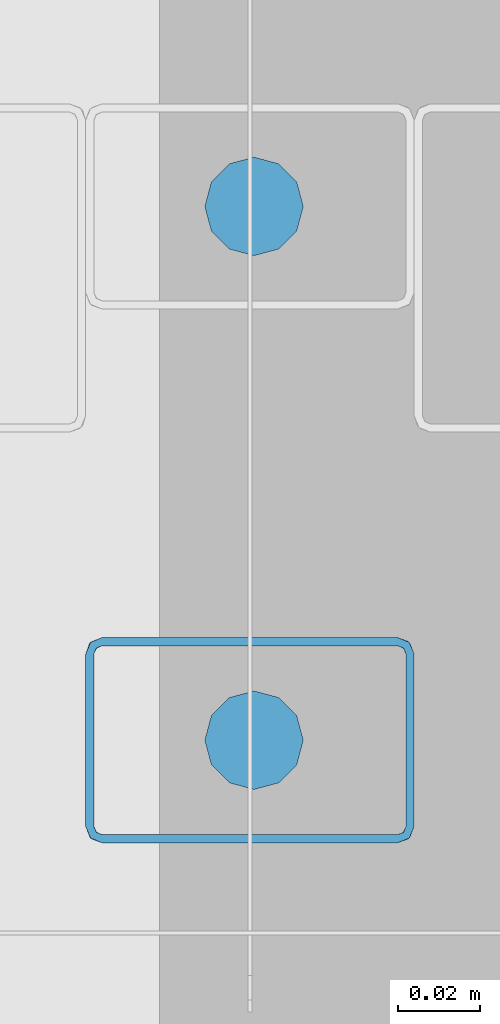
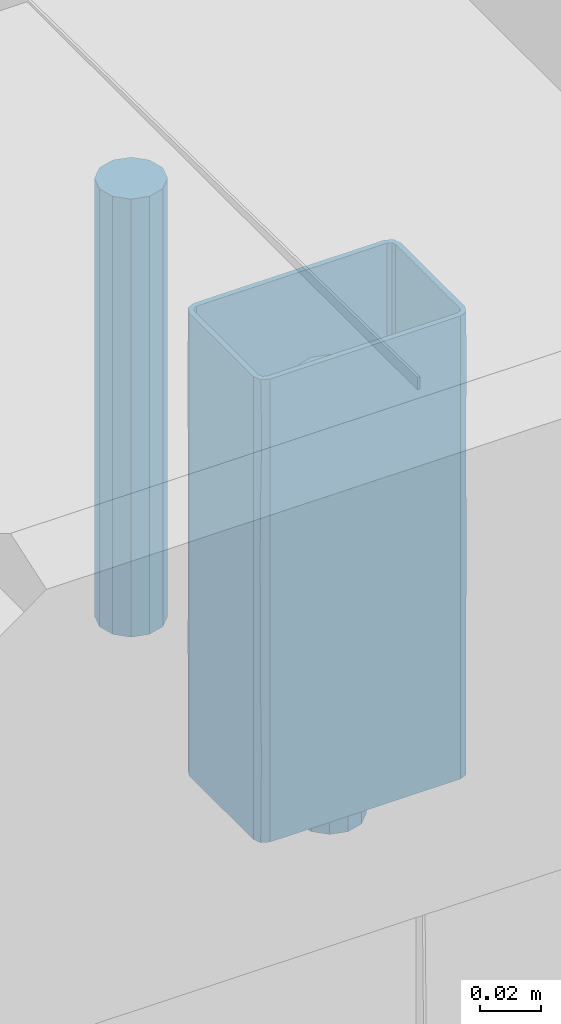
# One storey, part 146 of 186: 3 beams.
"""IFC4X3_ADD2 building model written with IfcOpenShell, lengths in millimetres."""

from ifc_helpers import new_model, si_unit, direction, frame, origin_with_axes, place, context, subcontext, project, spatial, polygons, element, save


model = new_model("IFC4X3_ADD2")

# Units and contexts
model_context = context("Model", 3, precision=1e-05, world=origin_with_axes(), true_north=direction((0.0, 1.0)))
body_context = subcontext(model_context, "Body", "Model", "MODEL_VIEW")
ifc_project = project(units=[si_unit("LENGTHUNIT", "METRE", prefix="MILLI"), si_unit("AREAUNIT", "SQUARE_METRE"), si_unit("VOLUMEUNIT", "CUBIC_METRE"), si_unit("PLANEANGLEUNIT", "RADIAN"), si_unit("TIMEUNIT", "SECOND"), si_unit("MASSUNIT", "GRAM")], contexts=[model_context])

# Site, building, storey
site_placement = place(None, origin_with_axes())
site = spatial("IfcSite", under=ifc_project, at=site_placement, Name="Site", CompositionType="ELEMENT")
building_placement = place(site_placement, origin_with_axes())
building = spatial("IfcBuilding", under=site, at=building_placement, Name="IFC Building Story")
storey_placement = place(building_placement, frame((0.0, 0.0, 4370.0), z_axis=(0.0, 0.0, 1.0), x_axis=(1.0, 0.0, 0.0)))
storey = spatial("IfcBuildingStorey", under=building, at=storey_placement, Name="ETAGE 10 (1)", Elevation=4370.0)

# Beams
beam_1_placement = place(storey_placement, frame((0.0, 0.0, -4370.0), z_axis=(0.0, 0.0, 1.0), x_axis=(1.0, 0.0, 0.0)))
element("IfcBeam", 1, at=beam_1_placement, inside=storey, Name="SD11", ObjectType="D24", context=body_context, shape_type="Tessellation", body=[
    polygons([(48350.1886988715, -14379.999992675, 7707.905416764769), (48350.1886988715, -14379.999992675, 7532.90541676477), (48351.79639402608, -14385.999992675, 7532.90541676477), (48351.79639402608, -14385.999992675, 7707.905416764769), (48356.18869887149, -14390.39229752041, 7532.90541676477), (48356.18869887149, -14390.39229752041, 7707.905416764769), (48362.18869887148, -14391.999992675, 7532.90541676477), (48362.18869887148, -14391.999992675, 7707.905416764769), (48368.18869887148, -14390.39229752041, 7532.90541676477), (48368.18869887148, -14390.39229752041, 7707.905416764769), (48372.58100371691, -14385.999992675, 7532.90541676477), (48372.58100371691, -14385.999992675, 7707.905416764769), (48374.1886988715, -14379.999992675, 7532.90541676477), (48374.1886988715, -14379.999992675, 7707.905416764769), (48372.58100371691, -14373.999992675, 7532.90541676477), (48372.58100371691, -14373.999992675, 7707.905416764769), (48368.18869887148, -14369.60768782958, 7532.90541676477), (48368.18869887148, -14369.60768782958, 7707.905416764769), (48362.18869887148, -14367.999992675, 7532.90541676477), (48362.18869887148, -14367.999992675, 7707.905416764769), (48356.18869887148, -14369.60768782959, 7532.90541676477), (48356.18869887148, -14369.60768782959, 7707.905416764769), (48351.79639402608, -14373.999992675, 7532.90541676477), (48351.79639402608, -14373.999992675, 7707.905416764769)], [[[1, 2, 3, 4]], [[4, 3, 5, 6]], [[6, 5, 7, 8]], [[8, 7, 9, 10]], [[10, 9, 11, 12]], [[12, 11, 13, 14]], [[14, 13, 15, 16]], [[16, 15, 17, 18]], [[18, 17, 19, 20]], [[20, 19, 21, 22]], [[22, 21, 23, 24]], [[24, 23, 2, 1]], [[4, 6, 8]], [[4, 8, 10]], [[4, 10, 12]], [[4, 12, 14]], [[4, 14, 16]], [[4, 16, 18]], [[4, 18, 20]], [[4, 20, 22]], [[4, 22, 24]], [[4, 24, 1]], [[2, 23, 21]], [[2, 21, 19]], [[2, 19, 17]], [[2, 17, 15]], [[2, 15, 13]], [[2, 13, 11]], [[2, 11, 9]], [[2, 9, 7]], [[2, 7, 5]], [[2, 5, 3]]]),
])
beam_2_placement = place(storey_placement, frame((0.0, 0.0, -4370.0), z_axis=(0.0, 0.0, 1.0), x_axis=(1.0, 0.0, 0.0)))
element("IfcBeam", 2, at=beam_2_placement, inside=storey, Name="SD11", ObjectType="D24", context=body_context, shape_type="Tessellation", body=[
    polygons([(48350.1886988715, -14249.999992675, 7707.905416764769), (48350.1886988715, -14249.999992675, 7532.90541676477), (48351.79639402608, -14255.999992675, 7532.90541676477), (48351.79639402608, -14255.999992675, 7707.905416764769), (48356.18869887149, -14260.39229752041, 7532.90541676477), (48356.18869887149, -14260.39229752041, 7707.905416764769), (48362.18869887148, -14261.999992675, 7532.90541676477), (48362.18869887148, -14261.999992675, 7707.905416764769), (48368.18869887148, -14260.39229752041, 7532.90541676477), (48368.18869887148, -14260.39229752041, 7707.905416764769), (48372.58100371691, -14255.999992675, 7532.90541676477), (48372.58100371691, -14255.999992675, 7707.905416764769), (48374.1886988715, -14249.999992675, 7532.90541676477), (48374.1886988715, -14249.999992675, 7707.905416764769), (48372.58100371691, -14243.999992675, 7532.90541676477), (48372.58100371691, -14243.999992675, 7707.905416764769), (48368.18869887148, -14239.60768782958, 7532.90541676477), (48368.18869887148, -14239.60768782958, 7707.905416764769), (48362.18869887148, -14237.999992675, 7532.90541676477), (48362.18869887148, -14237.999992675, 7707.905416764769), (48356.18869887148, -14239.60768782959, 7532.90541676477), (48356.18869887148, -14239.60768782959, 7707.905416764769), (48351.79639402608, -14243.999992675, 7532.90541676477), (48351.79639402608, -14243.999992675, 7707.905416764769)], [[[1, 2, 3, 4]], [[4, 3, 5, 6]], [[6, 5, 7, 8]], [[8, 7, 9, 10]], [[10, 9, 11, 12]], [[12, 11, 13, 14]], [[14, 13, 15, 16]], [[16, 15, 17, 18]], [[18, 17, 19, 20]], [[20, 19, 21, 22]], [[22, 21, 23, 24]], [[24, 23, 2, 1]], [[4, 6, 8]], [[4, 8, 10]], [[4, 10, 12]], [[4, 12, 14]], [[4, 14, 16]], [[4, 16, 18]], [[4, 18, 20]], [[4, 20, 22]], [[4, 22, 24]], [[4, 24, 1]], [[2, 23, 21]], [[2, 21, 19]], [[2, 19, 17]], [[2, 17, 15]], [[2, 15, 13]], [[2, 13, 11]], [[2, 11, 9]], [[2, 9, 7]], [[2, 7, 5]], [[2, 5, 3]]]),
])
beam_3_placement = place(storey_placement, frame((0.0, 0.0, -4370.0), z_axis=(0.0, 0.0, 1.0), x_axis=(1.0, 0.0, 0.0)))
element("IfcBeam", 3, at=beam_3_placement, inside=storey, Name="PS9", ObjectType="K50*80*2", context=body_context, shape_type="Tessellation", body=[
    polygons([(48399.18900000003, -14400.99999999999, 7549.598981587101), (48401.18900000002, -14400.99999999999, 7549.598981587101), (48398.60321356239, -14402.41421356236, 7549.598981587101), (48399.18900000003, -14358.99999999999, 7549.598981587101), (48401.18900000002, -14358.99999999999, 7549.598981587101), (48398.60321356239, -14357.58578643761, 7549.598981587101), (48400.01742712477, -14356.17157287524, 7549.598981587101), (48397.18900000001, -14354.99999999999, 7549.598981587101), (48397.18900000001, -14356.99999999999, 7549.598981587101), (48325.18900000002, -14354.99999999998, 7549.598981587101), (48325.18900000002, -14356.99999999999, 7549.598981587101), (48323.77478643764, -14357.58578643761, 7549.598981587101), (48322.36057287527, -14356.17157287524, 7549.598981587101), (48321.18900000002, -14358.99999999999, 7549.598981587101), (48323.18900000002, -14358.99999999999, 7549.598981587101), (48321.18900000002, -14400.99999999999, 7549.598981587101), (48323.18900000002, -14400.99999999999, 7549.598981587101), (48323.77478643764, -14402.41421356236, 7549.598981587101), (48322.36057287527, -14403.82842712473, 7549.598981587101), (48325.18900000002, -14404.99999999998, 7549.598981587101), (48325.18900000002, -14402.99999999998, 7549.598981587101), (48397.18900000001, -14402.99999999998, 7549.598981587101), (48397.18900000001, -14404.99999999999, 7549.598981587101), (48400.01742712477, -14403.82842712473, 7549.598981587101), (48323.18900000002, -14400.99999999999, 7734.598981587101), (48321.18900000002, -14400.99999999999, 7734.598981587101), (48323.77478643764, -14402.41421356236, 7734.598981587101), (48323.18900000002, -14358.99999999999, 7734.598981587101), (48321.18900000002, -14358.99999999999, 7734.598981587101), (48323.77478643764, -14357.58578643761, 7734.598981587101), (48322.36057287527, -14356.17157287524, 7734.598981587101), (48325.18900000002, -14354.99999999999, 7734.598981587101), (48325.18900000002, -14356.99999999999, 7734.598981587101), (48397.18900000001, -14354.99999999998, 7734.598981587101), (48397.18900000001, -14356.99999999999, 7734.598981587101), (48398.60321356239, -14357.58578643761, 7734.598981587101), (48400.01742712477, -14356.17157287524, 7734.598981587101), (48401.18900000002, -14358.99999999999, 7734.598981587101), (48399.18900000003, -14358.99999999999, 7734.598981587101), (48401.18900000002, -14400.99999999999, 7734.598981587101), (48399.18900000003, -14400.99999999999, 7734.598981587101), (48398.60321356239, -14402.41421356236, 7734.598981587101), (48400.01742712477, -14403.82842712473, 7734.598981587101), (48397.18900000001, -14404.99999999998, 7734.598981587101), (48397.18900000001, -14402.99999999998, 7734.598981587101), (48325.18900000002, -14402.99999999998, 7734.598981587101), (48325.18900000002, -14404.99999999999, 7734.598981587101), (48322.36057287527, -14403.82842712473, 7734.598981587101), (48325.18900000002, -14354.99999999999, 7567.057500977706), (48325.18900000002, -14354.99999999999, 7595.848981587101), (48325.18900000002, -14354.99999999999, 7618.973979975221), (48325.18900000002, -14354.99999999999, 7642.098981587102), (48325.18900000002, -14354.99999999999, 7665.22398319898), (48325.18900000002, -14354.99999999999, 7688.348981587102), (48325.18900000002, -14354.99999999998, 7717.140462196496), (48397.18900000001, -14354.99999999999, 7699.681936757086), (48397.18900000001, -14354.99999999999, 7677.016027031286), (48397.18900000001, -14354.99999999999, 7648.224549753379), (48397.18900000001, -14354.99999999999, 7619.433072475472), (48397.18900000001, -14354.99999999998, 7584.516026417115), (48399.8711395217, -14356.03248798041, 7688.348979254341), (48401.18900000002, -14358.99999999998, 7717.140460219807), (48401.18900000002, -14358.99999999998, 7567.057505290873), (48400.13732995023, -14356.29678885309, 7578.945875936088), (48400.13076139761, -14356.28964211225, 7653.661479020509), (48401.18900000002, -14358.99999999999, 7665.223981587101), (48400.13085629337, -14356.28974511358, 7628.466971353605), (48399.76834546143, -14355.94271738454, 7711.526446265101), (48401.18900000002, -14358.99999999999, 7688.348981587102), (48399.75782180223, -14355.93386977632, 7602.891747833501), (48401.18900000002, -14358.99999999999, 7642.098981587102), (48401.18900000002, -14358.99999999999, 7618.9739815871), (48401.18900000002, -14358.99999999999, 7595.848981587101), (48401.18900000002, -14400.99999999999, 7717.140458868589), (48401.18900000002, -14400.99999999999, 7688.348981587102), (48401.18900000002, -14400.99999999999, 7665.223981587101), (48401.18900000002, -14400.99999999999, 7642.098981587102), (48401.18900000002, -14400.99999999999, 7618.9739815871), (48401.18900000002, -14400.99999999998, 7595.848981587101), (48401.18900000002, -14400.99999999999, 7567.057504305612), (48400.13733021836, -14403.70321085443, 7705.252077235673), (48399.76834551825, -14404.05728256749, 7572.671514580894), (48399.87113952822, -14403.96751201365, 7595.848979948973), (48397.18900000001, -14404.99999999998, 7584.516027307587), (48397.18900000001, -14404.99999999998, 7607.181936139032), (48400.13076137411, -14403.71035791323, 7630.536479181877), (48397.18900000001, -14404.99999999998, 7699.681935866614), (48399.75782193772, -14404.06613011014, 7681.306206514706), (48400.13085619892, -14403.71025498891, 7655.73098495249), (48397.18900000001, -14404.99999999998, 7664.764890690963), (48397.18900000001, -14404.99999999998, 7635.973413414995), (48325.18900000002, -14404.99999999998, 7699.681936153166), (48325.18900000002, -14404.99999999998, 7670.890458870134), (48325.18900000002, -14404.99999999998, 7642.098981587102), (48325.18900000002, -14404.99999999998, 7618.973981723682), (48325.18900000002, -14404.99999999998, 7595.848981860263), (48325.18900000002, -14404.99999999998, 7567.057504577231), (48321.18900000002, -14400.99999999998, 7584.516027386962), (48321.18900000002, -14400.99999999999, 7619.433073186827), (48322.34856484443, -14403.81636789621, 7607.411479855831), (48321.18900000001, -14400.99999999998, 7699.681935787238), (48322.36057299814, -14403.8284272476, 7688.348976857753), (48322.60086179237, -14404.04984272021, 7711.473977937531), (48322.53711678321, -14403.99458100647, 7583.376471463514), (48322.22149317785, -14403.68214527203, 7663.470051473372), (48322.29673344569, -14403.76311313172, 7640.418718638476), (48321.18900000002, -14400.99999999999, 7677.01602659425), (48321.18900000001, -14400.99999999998, 7648.224549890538), (48321.18900000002, -14358.99999999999, 7699.681936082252), (48321.18900000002, -14358.99999999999, 7677.016027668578), (48321.18900000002, -14358.99999999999, 7648.224550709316), (48321.18900000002, -14358.99999999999, 7619.433072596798), (48321.18900000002, -14358.99999999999, 7584.516027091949), (48322.22148794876, -14356.31786051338, 7688.348978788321), (48322.48578884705, -14356.05167005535, 7578.945875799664), (48322.4786421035, -14356.05823861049, 7653.661478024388), (48322.47874509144, -14356.05814372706, 7628.466970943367), (48322.13171738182, -14356.42065454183, 7711.526445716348), (48322.12286975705, -14356.43117822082, 7602.891747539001), (48323.82900168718, -14357.53357421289, 7625.929039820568), (48323.18900000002, -14358.99999999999, 7623.66922028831), (48323.8741783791, -14357.49293526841, 7613.583468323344), (48323.61029313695, -14357.77212189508, 7664.531819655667), (48323.71172133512, -14357.65179832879, 7653.749277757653), (48325.18900000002, -14356.99999999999, 7665.223981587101), (48323.82900170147, -14357.53357419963, 7693.738959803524), (48323.18900000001, -14358.99999999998, 7702.259100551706), (48323.18900000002, -14358.99999999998, 7691.479140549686), (48323.18900000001, -14358.99999999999, 7680.699180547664), (48323.70209668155, -14357.6624206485, 7641.817961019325), (48325.18900000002, -14356.99999999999, 7642.098981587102), (48325.18900000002, -14356.99999999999, 7722.253941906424), (48323.7747864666, -14357.58578640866, 7717.646499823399), (48325.18900000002, -14356.99999999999, 7709.90890222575), (48323.78342951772, -14357.57719586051, 7705.830626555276), (48323.18900000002, -14358.99999999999, 7722.25394171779), (48323.18900000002, -14358.99999999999, 7561.94402094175), (48323.77478641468, -14357.58578646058, 7568.11654096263), (48325.18900000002, -14356.99999999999, 7561.944021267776), (48323.18900000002, -14358.99999999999, 7636.014260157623), (48323.18900000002, -14358.99999999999, 7586.634100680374), (48323.72836652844, -14357.63378264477, 7580.461580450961), (48323.77478639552, -14357.58578647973, 7592.806619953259), (48323.71633825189, -14357.64675671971, 7675.309197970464), (48325.18900000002, -14356.99999999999, 7688.348981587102), (48323.18900000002, -14358.99999999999, 7598.979140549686), (48323.18900000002, -14358.99999999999, 7574.289060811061), (48325.18900000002, -14356.99999999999, 7586.63410062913), (48325.18900000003, -14356.99999999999, 7574.289060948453), (48323.18900000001, -14358.99999999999, 7713.039061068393), (48325.18900000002, -14356.99999999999, 7699.128941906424), (48323.18900000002, -14358.99999999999, 7659.139259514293), (48323.18900000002, -14358.99999999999, 7648.359299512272), (48323.18900000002, -14358.99999999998, 7669.919220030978), (48325.18900000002, -14356.99999999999, 7653.661481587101), (48325.18900000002, -14356.99999999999, 7631.319021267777), (48325.18900000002, -14356.99999999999, 7676.786481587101), (48325.18900000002, -14356.99999999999, 7620.539060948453), (48323.18900000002, -14358.99999999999, 7611.324180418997), (48323.633445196, -14357.74292034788, 7603.287688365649), (48325.18900000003, -14356.99999999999, 7609.759100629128), (48325.18900000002, -14356.99999999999, 7598.979140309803), (48323.18900000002, -14400.99999999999, 7722.253941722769), (48323.18900000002, -14400.99999999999, 7709.908901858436), (48323.18900000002, -14400.99999999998, 7699.128941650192), (48323.18900000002, -14400.99999999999, 7688.348981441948), (48323.18900000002, -14400.99999999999, 7676.786481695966), (48323.18900000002, -14400.99999999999, 7665.223981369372), (48323.18900000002, -14400.99999999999, 7653.661481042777), (48323.18900000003, -14400.99999999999, 7642.098981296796), (48323.18900000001, -14400.99999999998, 7630.536481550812), (48323.18900000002, -14400.99999999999, 7618.973981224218), (48323.18900000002, -14400.99999999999, 7607.411480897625), (48323.18900000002, -14400.99999999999, 7595.848981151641), (48323.18900000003, -14400.99999999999, 7585.069020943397), (48323.18900000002, -14400.99999999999, 7574.289060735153), (48323.18900000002, -14400.99999999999, 7561.944021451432), (48323.70496062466, -14402.3407561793, 7659.44273014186), (48323.66485584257, -14402.29498439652, 7647.880618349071), (48323.87424681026, -14402.50712443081, 7621.237918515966), (48323.70296043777, -14402.33853891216, 7636.317730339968), (48325.18900000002, -14402.99999999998, 7625.058702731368), (48325.18900000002, -14402.99999999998, 7561.944020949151), (48323.77478644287, -14402.41421356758, 7566.551461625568), (48325.18900000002, -14402.99999999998, 7571.158902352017), (48323.72257418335, -14402.35999828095, 7579.67904054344), (48323.70041971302, -14402.33571281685, 7694.823087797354), (48323.71734898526, -14402.35434238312, 7682.567730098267), (48325.18900000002, -14402.99999999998, 7648.18370400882), (48323.73451716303, -14402.37276351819, 7591.347273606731), (48325.18900000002, -14402.99999999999, 7581.938862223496), (48325.18900000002, -14402.99999999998, 7722.25394222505), (48325.18900000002, -14402.99999999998, 7685.218823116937), (48323.77478642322, -14402.41421354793, 7716.08142123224), (48325.18900000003, -14402.99999999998, 7709.908901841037), (48325.18900000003, -14402.99999999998, 7672.873782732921), (48323.66529696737, -14402.29550340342, 7671.008022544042), (48325.18900000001, -14402.99999999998, 7660.528743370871), (48323.83575669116, -14402.47266172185, 7608.888762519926), (48325.18900000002, -14402.99999999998, 7614.278742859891), (48325.18900000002, -14402.99999999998, 7603.498782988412), (48325.18900000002, -14402.99999999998, 7592.718822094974), (48325.18900000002, -14402.99999999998, 7697.563862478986), (48323.91915055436, -14402.54514801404, 7705.388109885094), (48325.18900000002, -14402.99999999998, 7635.838663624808), (48397.18900000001, -14402.99999999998, 7722.253942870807), (48397.18900000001, -14402.99999999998, 7711.473981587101), (48397.18900000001, -14402.99999999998, 7699.9114815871), (48397.18900000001, -14402.99999999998, 7688.348981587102), (48397.18900000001, -14402.99999999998, 7676.786481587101), (48397.18900000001, -14402.99999999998, 7665.223981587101), (48397.18900000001, -14402.99999999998, 7653.661481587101), (48397.18900000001, -14402.99999999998, 7642.098981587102), (48397.18900000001, -14402.99999999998, 7630.536481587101), (48397.18900000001, -14402.99999999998, 7618.9739815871), (48397.18900000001, -14402.99999999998, 7607.411481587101), (48397.18900000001, -14402.99999999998, 7595.848981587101), (48397.18900000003, -14402.99999999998, 7585.069020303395), (48397.18900000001, -14402.99999999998, 7574.289060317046), (48397.18900000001, -14402.99999999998, 7561.944020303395), (48398.52975615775, -14402.48403939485, 7659.442730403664), (48398.48398437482, -14402.52414417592, 7647.880618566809), (48398.69612441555, -14402.31475320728, 7621.237918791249), (48398.52753889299, -14402.48603957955, 7636.317730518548), (48399.18900000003, -14400.99999999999, 7625.058703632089), (48398.47519377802, -14402.53156964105, 7705.518256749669), (48399.18900000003, -14400.99999999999, 7561.944022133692), (48398.60321356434, -14402.41421356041, 7566.551461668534), (48399.18900000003, -14400.99999999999, 7571.158902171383), (48399.18900000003, -14400.99999999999, 7722.253942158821), (48398.54899827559, -14402.46642582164, 7579.679040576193), (48399.18900000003, -14400.99999999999, 7685.218822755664), (48398.5543183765, -14402.46147382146, 7694.130230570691), (48399.18900000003, -14400.99999999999, 7697.563862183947), (48398.67461845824, -14402.33900627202, 7679.046301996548), (48398.56176351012, -14402.45448284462, 7591.347273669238), (48399.18900000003, -14400.99999999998, 7581.938862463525), (48399.18900000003, -14400.99999999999, 7709.908902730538), (48398.60321354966, -14402.41421357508, 7716.86396120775), (48399.18900000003, -14400.99999999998, 7648.183703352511), (48399.18900000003, -14400.99999999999, 7672.873783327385), (48399.18900000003, -14400.99999999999, 7660.528742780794), (48398.66166170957, -14402.35324332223, 7608.888762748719), (48399.18900000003, -14400.99999999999, 7614.278743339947), (48399.18900000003, -14400.99999999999, 7603.498783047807), (48399.18900000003, -14400.99999999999, 7592.718822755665), (48399.18900000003, -14400.99999999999, 7635.838663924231), (48399.18900000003, -14358.99999999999, 7722.253941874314), (48399.18900000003, -14358.99999999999, 7709.908902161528), (48399.18900000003, -14358.99999999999, 7697.563862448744), (48399.18900000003, -14358.99999999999, 7685.218822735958), (48399.18900000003, -14358.99999999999, 7672.873783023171), (48399.18900000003, -14358.99999999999, 7660.528743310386), (48399.18900000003, -14358.99999999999, 7648.183703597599), (48399.18900000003, -14358.99999999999, 7635.838663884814), (48399.18900000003, -14358.99999999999, 7625.0587035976), (48399.18900000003, -14358.99999999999, 7614.278743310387), (48399.18900000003, -14358.99999999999, 7603.498783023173), (48399.18900000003, -14358.99999999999, 7592.718822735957), (48399.18900000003, -14358.99999999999, 7581.938862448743), (48399.18900000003, -14358.99999999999, 7571.158902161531), (48399.18900000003, -14358.99999999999, 7561.944021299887), (48398.76770674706, -14357.77212174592, 7619.666140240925), (48398.66627859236, -14357.65179824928, 7630.448682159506), (48397.18900000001, -14356.99999999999, 7618.973981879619), (48398.54899824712, -14357.5335741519, 7658.268919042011), (48398.50382159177, -14357.49293524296, 7670.614489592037), (48398.60321360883, -14357.58578648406, 7716.081418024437), (48398.60321362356, -14357.58578649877, 7702.876051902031), (48397.18900000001, -14356.99999999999, 7709.908902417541), (48397.18900000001, -14356.99999999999, 7642.098981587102), (48398.67590326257, -14357.66242058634, 7642.379998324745), (48398.54899825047, -14357.53357415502, 7590.459000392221), (48398.59457048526, -14357.57719586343, 7578.367333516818), (48397.18900000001, -14356.99999999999, 7574.289060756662), (48398.60321356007, -14357.58578643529, 7566.551461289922), (48398.6616616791, -14357.64675664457, 7608.888761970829), (48397.18900000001, -14356.99999999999, 7595.848981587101), (48397.18900000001, -14356.99999999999, 7697.563862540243), (48398.60321352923, -14357.58578640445, 7690.510053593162), (48397.18900000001, -14356.99999999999, 7722.253941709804), (48397.18900000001, -14356.99999999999, 7561.944021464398), (48397.18900000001, -14356.99999999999, 7585.069021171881), (48397.18900000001, -14356.99999999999, 7630.536482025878), (48397.18900000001, -14356.99999999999, 7652.878942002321), (48397.18900000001, -14356.99999999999, 7607.41148173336), (48397.18900000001, -14356.99999999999, 7663.658901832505), (48397.18900000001, -14356.99999999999, 7674.438862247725), (48397.18900000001, -14356.99999999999, 7685.218822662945)], [[[1, 2, 3]], [[2, 1, 4]], [[4, 5, 2]], [[6, 5, 4]], [[7, 5, 6]], [[6, 8, 7]], [[6, 9, 8]], [[8, 9, 10]], [[11, 10, 9]], [[11, 12, 10]], [[10, 12, 13]], [[14, 13, 12]], [[14, 12, 15]], [[14, 15, 16]], [[17, 16, 15]], [[18, 16, 17]], [[16, 18, 19]], [[18, 20, 19]], [[21, 20, 18]], [[20, 21, 22]], [[3, 23, 22]], [[22, 23, 20]], [[3, 2, 24]], [[23, 3, 24]], [[25, 26, 27]], [[26, 25, 28]], [[28, 29, 26]], [[30, 29, 28]], [[31, 29, 30]], [[30, 32, 31]], [[30, 33, 32]], [[32, 33, 34]], [[35, 34, 33]], [[35, 36, 34]], [[34, 36, 37]], [[38, 37, 36]], [[38, 36, 39]], [[38, 39, 40]], [[41, 40, 39]], [[42, 40, 41]], [[40, 42, 43]], [[42, 44, 43]], [[45, 44, 42]], [[44, 45, 46]], [[27, 47, 46]], [[46, 47, 44]], [[27, 26, 48]], [[47, 27, 48]], [[55, 32, 34]], [[56, 57, 54]], [[54, 55, 34]], [[54, 34, 56]], [[57, 53, 54]], [[57, 58, 52]], [[57, 52, 53]], [[58, 59, 51]], [[58, 51, 52]], [[59, 60, 50]], [[59, 50, 51]], [[60, 8, 49]], [[60, 49, 50]], [[8, 10, 49]], [[61, 57, 56]], [[37, 38, 62]], [[63, 5, 7]], [[7, 8, 64]], [[61, 65, 57]], [[66, 65, 61]], [[67, 59, 58]], [[61, 68, 69]], [[61, 56, 68]], [[8, 60, 64]], [[67, 70, 59]], [[34, 37, 68]], [[64, 60, 70]], [[68, 62, 69]], [[58, 65, 67]], [[65, 66, 71]], [[61, 69, 66]], [[65, 71, 67]], [[57, 65, 58]], [[70, 72, 73]], [[72, 70, 67]], [[64, 73, 63]], [[60, 59, 70]], [[34, 68, 56]], [[62, 68, 37]], [[67, 71, 72]], [[73, 64, 70]], [[7, 64, 63]], [[62, 38, 40]], [[62, 40, 74]], [[74, 75, 69]], [[74, 69, 62]], [[75, 76, 66]], [[75, 66, 69]], [[76, 77, 71]], [[76, 71, 66]], [[77, 78, 72]], [[77, 72, 71]], [[78, 79, 73]], [[78, 73, 72]], [[79, 80, 63]], [[79, 63, 73]], [[80, 2, 5]], [[80, 5, 63]], [[43, 44, 81]], [[82, 79, 83]], [[84, 83, 85]], [[82, 80, 79]], [[83, 86, 85]], [[24, 2, 80]], [[74, 40, 43]], [[78, 86, 83]], [[81, 44, 87]], [[87, 88, 81]], [[89, 90, 91]], [[89, 88, 90]], [[23, 24, 82]], [[83, 84, 82]], [[91, 86, 89]], [[86, 78, 77]], [[83, 79, 78]], [[86, 77, 89]], [[85, 86, 91]], [[88, 76, 75]], [[76, 88, 89]], [[81, 75, 74]], [[87, 90, 88]], [[23, 82, 84]], [[80, 82, 24]], [[89, 77, 76]], [[75, 81, 88]], [[43, 81, 74]], [[87, 44, 47]], [[87, 47, 92]], [[92, 93, 90]], [[92, 90, 87]], [[93, 94, 91]], [[93, 91, 90]], [[95, 96, 85]], [[85, 91, 94]], [[85, 94, 95]], [[96, 84, 85]], [[97, 20, 23]], [[97, 23, 84]], [[84, 96, 97]], [[98, 16, 19]], [[99, 98, 100]], [[101, 102, 103]], [[19, 97, 104]], [[48, 103, 47]], [[94, 105, 106]], [[93, 102, 105]], [[96, 100, 104]], [[105, 102, 107]], [[26, 101, 103]], [[100, 106, 99]], [[19, 20, 97]], [[101, 107, 102]], [[105, 94, 93]], [[103, 102, 92]], [[93, 92, 102]], [[107, 108, 105]], [[105, 108, 106]], [[47, 103, 92]], [[103, 48, 26]], [[108, 99, 106]], [[96, 95, 100]], [[100, 95, 106]], [[95, 94, 106]], [[104, 100, 98]], [[19, 104, 98]], [[97, 96, 104]], [[101, 26, 29]], [[101, 29, 109]], [[109, 110, 107]], [[109, 107, 101]], [[110, 111, 108]], [[110, 108, 107]], [[111, 112, 99]], [[111, 99, 108]], [[112, 113, 98]], [[112, 98, 99]], [[113, 14, 16]], [[113, 16, 98]], [[114, 110, 109]], [[31, 32, 55]], [[49, 10, 13]], [[13, 14, 115]], [[114, 116, 110]], [[53, 116, 114]], [[117, 112, 111]], [[114, 118, 54]], [[114, 109, 118]], [[14, 113, 115]], [[117, 119, 112]], [[29, 31, 118]], [[115, 113, 119]], [[118, 55, 54]], [[111, 116, 117]], [[116, 53, 52]], [[114, 54, 53]], [[116, 52, 117]], [[110, 116, 111]], [[119, 51, 50]], [[51, 119, 117]], [[115, 50, 49]], [[113, 112, 119]], [[29, 118, 109]], [[55, 118, 31]], [[117, 52, 51]], [[50, 115, 119]], [[13, 115, 49]], [[120, 121, 122]], [[123, 124, 125]], [[126, 127, 128, 129]], [[124, 130, 131]], [[132, 30, 133]], [[134, 133, 135]], [[30, 28, 136]], [[137, 15, 12]], [[138, 12, 139]], [[120, 130, 140]], [[141, 142, 143]], [[144, 145, 126]], [[141, 143, 146]], [[137, 138, 147]], [[148, 142, 149]], [[30, 136, 133]], [[150, 133, 136]], [[12, 11, 139]], [[132, 33, 30]], [[12, 138, 137]], [[133, 134, 132]], [[150, 127, 135]], [[135, 126, 151]], [[150, 135, 133]], [[151, 126, 145]], [[152, 153, 124]], [[129, 154, 144]], [[124, 131, 155, 125]], [[130, 120, 156]], [[144, 154, 123]], [[157, 145, 144, 125]], [[129, 144, 126]], [[152, 123, 154]], [[158, 120, 122]], [[142, 138, 149]], [[142, 141, 147]], [[149, 138, 139]], [[159, 122, 121]], [[153, 130, 124]], [[159, 160, 122]], [[156, 120, 158]], [[121, 120, 140]], [[143, 160, 146]], [[161, 158, 122]], [[143, 162, 160]], [[148, 162, 143]], [[143, 142, 148]], [[138, 142, 147]], [[144, 123, 125]], [[124, 123, 152]], [[134, 135, 151]], [[135, 127, 126]], [[146, 160, 159]], [[162, 161, 160]], [[161, 122, 160]], [[156, 131, 130]], [[140, 130, 153]], [[136, 28, 25]], [[136, 25, 163]], [[163, 164, 150]], [[163, 150, 136]], [[164, 165, 127]], [[164, 127, 150]], [[165, 166, 128]], [[165, 128, 127]], [[166, 167, 129]], [[166, 129, 128]], [[167, 168, 154]], [[167, 154, 129]], [[168, 169, 152]], [[168, 152, 154]], [[169, 153, 152]], [[170, 171, 140]], [[140, 153, 169]], [[140, 169, 170]], [[171, 172, 121]], [[171, 121, 140]], [[172, 173, 159]], [[172, 159, 121]], [[173, 174, 146]], [[173, 146, 159]], [[174, 175, 141]], [[174, 141, 146]], [[175, 176, 147]], [[175, 147, 141]], [[176, 177, 137]], [[176, 137, 147]], [[177, 17, 15]], [[177, 15, 137]], [[178, 179, 169]], [[180, 181, 182]], [[163, 25, 27]], [[18, 17, 177]], [[183, 184, 185]], [[176, 175, 186]], [[187, 188, 166]], [[166, 188, 167]], [[189, 179, 178]], [[190, 186, 175]], [[186, 190, 191]], [[183, 21, 18]], [[46, 192, 27]], [[187, 193, 188]], [[163, 194, 164]], [[195, 194, 192]], [[185, 186, 191]], [[27, 194, 163]], [[196, 197, 188]], [[169, 168, 178]], [[18, 177, 176, 184]], [[198, 189, 178]], [[18, 184, 183]], [[186, 185, 184]], [[199, 200, 201]], [[176, 186, 184]], [[202, 191, 190, 201]], [[27, 192, 194]], [[190, 199, 201]], [[179, 181, 170]], [[197, 196, 198]], [[178, 168, 197]], [[193, 196, 188]], [[197, 167, 188]], [[187, 203, 193]], [[195, 204, 194]], [[165, 164, 204]], [[180, 199, 172]], [[172, 199, 174, 173]], [[199, 190, 174]], [[180, 200, 199]], [[205, 182, 181, 189]], [[171, 181, 180]], [[204, 195, 203]], [[187, 165, 204]], [[170, 181, 171]], [[180, 172, 171]], [[169, 179, 170]], [[181, 179, 189]], [[167, 197, 168]], [[198, 178, 197]], [[182, 200, 180]], [[187, 166, 165]], [[194, 204, 164]], [[187, 204, 203]], [[174, 190, 175]], [[192, 46, 45]], [[192, 45, 206]], [[206, 207, 195]], [[206, 195, 192]], [[207, 208, 203]], [[207, 203, 195]], [[208, 209, 193]], [[208, 193, 203]], [[209, 210, 196]], [[209, 196, 193]], [[210, 211, 198]], [[210, 198, 196]], [[211, 212, 189]], [[211, 189, 198]], [[213, 214, 205]], [[213, 205, 189]], [[189, 212, 213]], [[214, 182, 205]], [[214, 215, 200]], [[214, 200, 182]], [[215, 216, 201]], [[215, 201, 200]], [[216, 217, 202]], [[216, 202, 201]], [[217, 218, 191]], [[217, 191, 202]], [[218, 219, 185]], [[218, 185, 191]], [[219, 220, 183]], [[219, 183, 185]], [[220, 22, 21]], [[220, 21, 183]], [[221, 222, 212]], [[223, 224, 225]], [[208, 207, 226]], [[227, 1, 3]], [[227, 3, 228]], [[228, 229, 227]], [[42, 41, 230]], [[219, 218, 231]], [[232, 233, 234]], [[233, 235, 209]], [[208, 233, 209]], [[236, 231, 218]], [[231, 236, 237]], [[238, 226, 239]], [[206, 239, 207]], [[208, 226, 233]], [[206, 45, 42]], [[220, 219, 228]], [[228, 3, 22]], [[228, 22, 220]], [[229, 231, 237]], [[42, 230, 239]], [[42, 239, 206]], [[239, 230, 238]], [[240, 222, 221]], [[221, 235, 241]], [[212, 211, 221]], [[242, 240, 221, 241]], [[231, 229, 228]], [[243, 244, 245]], [[219, 231, 228]], [[246, 237, 236, 245]], [[241, 235, 232]], [[238, 234, 226]], [[222, 224, 213]], [[210, 209, 235, 211]], [[235, 221, 211]], [[236, 243, 245]], [[223, 243, 215]], [[215, 243, 217, 216]], [[243, 236, 217]], [[223, 244, 243]], [[247, 225, 224, 240]], [[214, 224, 223]], [[213, 224, 214]], [[223, 215, 214]], [[232, 235, 233]], [[212, 222, 213]], [[224, 222, 240]], [[234, 233, 226]], [[239, 226, 207]], [[225, 244, 223]], [[217, 236, 218]], [[230, 41, 39]], [[230, 39, 248]], [[248, 249, 238]], [[248, 238, 230]], [[249, 250, 234]], [[249, 234, 238]], [[250, 251, 232]], [[250, 232, 234]], [[251, 252, 241]], [[251, 241, 232]], [[252, 253, 242]], [[252, 242, 241]], [[253, 254, 240]], [[253, 240, 242]], [[254, 255, 247]], [[254, 247, 240]], [[255, 256, 225]], [[255, 225, 247]], [[256, 257, 244]], [[256, 244, 225]], [[257, 258, 245]], [[257, 245, 244]], [[258, 259, 246]], [[258, 246, 245]], [[259, 260, 237]], [[259, 237, 246]], [[260, 261, 229]], [[260, 229, 237]], [[261, 262, 227]], [[261, 227, 229]], [[262, 4, 1]], [[262, 1, 227]], [[263, 264, 265]], [[266, 253, 267]], [[249, 248, 268]], [[269, 268, 270]], [[271, 264, 272]], [[273, 260, 259, 258]], [[261, 260, 274]], [[275, 276, 274]], [[266, 272, 254]], [[262, 261, 276]], [[276, 6, 4]], [[276, 4, 262]], [[248, 39, 36]], [[277, 278, 273]], [[269, 279, 280]], [[35, 281, 36]], [[282, 9, 6]], [[36, 268, 248]], [[282, 6, 276]], [[281, 270, 268]], [[282, 276, 275]], [[274, 273, 283]], [[261, 274, 276]], [[283, 273, 278]], [[256, 255, 264]], [[258, 257, 277]], [[264, 271, 284, 265]], [[272, 266, 285]], [[277, 257, 263]], [[286, 278, 277, 265]], [[258, 277, 273]], [[256, 263, 257]], [[36, 281, 268]], [[249, 268, 269]], [[252, 251, 267, 253]], [[255, 272, 264]], [[287, 266, 267]], [[285, 266, 287]], [[253, 266, 254]], [[250, 249, 269]], [[280, 250, 269]], [[288, 287, 267, 289]], [[280, 289, 267]], [[277, 263, 265]], [[251, 250, 280]], [[269, 270, 279]], [[264, 263, 256]], [[275, 274, 283]], [[274, 260, 273]], [[285, 271, 272]], [[254, 272, 255]], [[251, 280, 267]], [[289, 280, 279]], [[281, 35, 33]], [[281, 33, 132]], [[132, 134, 270]], [[132, 270, 281]], [[134, 151, 279]], [[134, 279, 270]], [[151, 145, 289]], [[151, 289, 279]], [[145, 157, 288]], [[145, 288, 289]], [[157, 125, 287]], [[157, 287, 288]], [[125, 155, 285]], [[125, 285, 287]], [[155, 131, 271]], [[155, 271, 285]], [[131, 156, 284]], [[131, 284, 271]], [[156, 158, 265]], [[156, 265, 284]], [[158, 161, 286]], [[158, 286, 265]], [[161, 162, 278]], [[161, 278, 286]], [[162, 148, 283]], [[162, 283, 278]], [[148, 149, 275]], [[148, 275, 283]], [[149, 139, 282]], [[149, 282, 275]], [[139, 11, 9]], [[139, 9, 282]]]),
])

save(model, "model.ifc")
